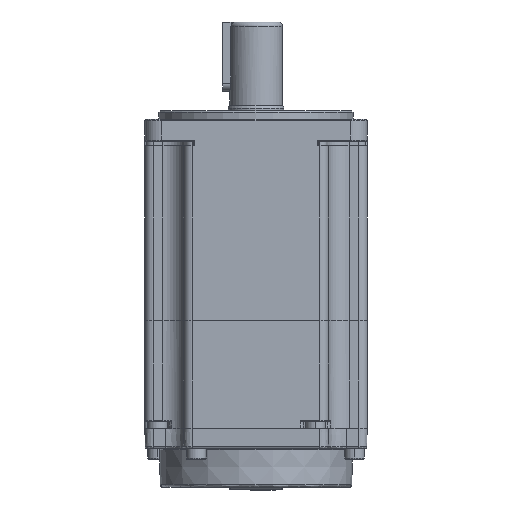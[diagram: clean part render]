
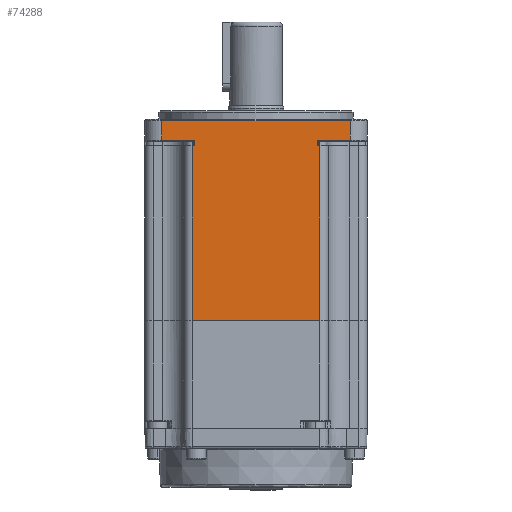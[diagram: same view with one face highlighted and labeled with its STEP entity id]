
A CAD part, front view. The second image highlights one B-rep face of the part: STEP entity #74288.
In plain terms, the highlighted planar face has unit normal (0, -1, 0).
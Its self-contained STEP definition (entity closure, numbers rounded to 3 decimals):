
#2422 = CARTESIAN_POINT ( 'NONE',  ( 37.746, -44.704, 42.75 ) ) ;
#3407 = DIRECTION ( 'NONE',  ( 0., 0., -1. ) ) ;
#7076 = EDGE_CURVE ( 'NONE', #12732, #55581, #115960, .T. ) ;
#8698 = VECTOR ( 'NONE', #81782, 1000. ) ;
#9080 = LINE ( 'NONE', #2422, #67541 ) ;
#9528 = CARTESIAN_POINT ( 'NONE',  ( 20.746, -44.704, 118.25 ) ) ;
#10376 = DIRECTION ( 'NONE',  ( 0., 0., 1. ) ) ;
#11192 = PLANE ( 'NONE',  #74548 ) ;
#11697 = DIRECTION ( 'NONE',  ( 1., 0., 0. ) ) ;
#11729 = CARTESIAN_POINT ( 'NONE',  ( 19.746, -44.704, 107.75 ) ) ;
#12706 = CARTESIAN_POINT ( 'NONE',  ( -36.254, -44.704, 107.75 ) ) ;
#12732 = VERTEX_POINT ( 'NONE', #70996 ) ;
#13141 = CARTESIAN_POINT ( 'NONE',  ( 31.746, -44.704, 114.65 ) ) ;
#13391 = EDGE_CURVE ( 'NONE', #31725, #127874, #109093, .T. ) ;
#13890 = EDGE_CURVE ( 'NONE', #69000, #120892, #102411, .T. ) ;
#16232 = ORIENTED_EDGE ( 'NONE', *, *, #49761, .T. ) ;
#16961 = CARTESIAN_POINT ( 'NONE',  ( 20.746, -44.704, 42.75 ) ) ;
#23304 = VECTOR ( 'NONE', #10376, 1000. ) ;
#25362 = LINE ( 'NONE', #55386, #77336 ) ;
#26228 = EDGE_CURVE ( 'NONE', #120892, #124269, #58440, .T. ) ;
#27139 = CARTESIAN_POINT ( 'NONE',  ( -25.254, -44.704, 105.75 ) ) ;
#27216 = VERTEX_POINT ( 'NONE', #27139 ) ;
#30057 = CARTESIAN_POINT ( 'NONE',  ( -24.254, -44.704, 118.25 ) ) ;
#30841 = CARTESIAN_POINT ( 'NONE',  ( 19.746, -44.704, 118.25 ) ) ;
#31725 = VERTEX_POINT ( 'NONE', #13141 ) ;
#32271 = CARTESIAN_POINT ( 'NONE',  ( -36.254, -44.704, 114.65 ) ) ;
#32969 = VECTOR ( 'NONE', #131649, 1000. ) ;
#33886 = EDGE_CURVE ( 'NONE', #55581, #27216, #60526, .T. ) ;
#34573 = FACE_OUTER_BOUND ( 'NONE', #127806, .T. ) ;
#42509 = DIRECTION ( 'NONE',  ( -1., 0., 0. ) ) ;
#42581 = CARTESIAN_POINT ( 'NONE',  ( -24.254, -44.704, 107.75 ) ) ;
#42735 = DIRECTION ( 'NONE',  ( -1., 0., 0. ) ) ;
#44100 = LINE ( 'NONE', #115545, #123699 ) ;
#46876 = ORIENTED_EDGE ( 'NONE', *, *, #7076, .T. ) ;
#47369 = CARTESIAN_POINT ( 'NONE',  ( 19.746, -44.704, 105.75 ) ) ;
#49447 = EDGE_CURVE ( 'NONE', #127874, #63603, #44100, .T. ) ;
#49761 = EDGE_CURVE ( 'NONE', #27216, #84607, #84536, .T. ) ;
#50591 = VECTOR ( 'NONE', #42735, 1000. ) ;
#51960 = ORIENTED_EDGE ( 'NONE', *, *, #129612, .T. ) ;
#53485 = CARTESIAN_POINT ( 'NONE',  ( 37.746, -44.704, 105.75 ) ) ;
#54396 = ORIENTED_EDGE ( 'NONE', *, *, #85055, .T. ) ;
#54967 = VERTEX_POINT ( 'NONE', #109622 ) ;
#55204 = VECTOR ( 'NONE', #93023, 1000. ) ;
#55386 = CARTESIAN_POINT ( 'NONE',  ( 37.746, -44.704, 107.75 ) ) ;
#55581 = VERTEX_POINT ( 'NONE', #131718 ) ;
#58440 = LINE ( 'NONE', #30841, #55204 ) ;
#60166 = VECTOR ( 'NONE', #3407, 1000. ) ;
#60526 = LINE ( 'NONE', #121200, #32969 ) ;
#63603 = VERTEX_POINT ( 'NONE', #12706 ) ;
#63665 = ORIENTED_EDGE ( 'NONE', *, *, #127051, .T. ) ;
#64283 = VECTOR ( 'NONE', #11697, 1000. ) ;
#64598 = DIRECTION ( 'NONE',  ( -1., 0., 0. ) ) ;
#65432 = CARTESIAN_POINT ( 'NONE',  ( -25.254, -44.704, 42.75 ) ) ;
#65557 = CARTESIAN_POINT ( 'NONE',  ( -25.254, -44.704, 118.25 ) ) ;
#65776 = DIRECTION ( 'NONE',  ( 1., 0., 0. ) ) ;
#66252 = ORIENTED_EDGE ( 'NONE', *, *, #91048, .F. ) ;
#67541 = VECTOR ( 'NONE', #64598, 1000. ) ;
#69000 = VERTEX_POINT ( 'NONE', #95052 ) ;
#70996 = CARTESIAN_POINT ( 'NONE',  ( -24.254, -44.704, 107.75 ) ) ;
#71117 = CARTESIAN_POINT ( 'NONE',  ( -36.254, -44.704, 114.65 ) ) ;
#73243 = LINE ( 'NONE', #9528, #97633 ) ;
#73723 = VERTEX_POINT ( 'NONE', #16961 ) ;
#74288 = ADVANCED_FACE ( 'NONE', ( #34573 ), #11192, .F. ) ;
#74548 = AXIS2_PLACEMENT_3D ( 'NONE', #125176, #104691, #42509 ) ;
#77336 = VECTOR ( 'NONE', #65776, 1000. ) ;
#79743 = ORIENTED_EDGE ( 'NONE', *, *, #49447, .T. ) ;
#81782 = DIRECTION ( 'NONE',  ( 0., 0., -1. ) ) ;
#84138 = DIRECTION ( 'NONE',  ( 0., 0., -1. ) ) ;
#84536 = LINE ( 'NONE', #65557, #60166 ) ;
#84607 = VERTEX_POINT ( 'NONE', #65432 ) ;
#85055 = EDGE_CURVE ( 'NONE', #124269, #54967, #25362, .T. ) ;
#86411 = ORIENTED_EDGE ( 'NONE', *, *, #110413, .T. ) ;
#91048 = EDGE_CURVE ( 'NONE', #73723, #84607, #9080, .T. ) ;
#91902 = LINE ( 'NONE', #42581, #64283 ) ;
#92593 = DIRECTION ( 'NONE',  ( 0., 0., 1. ) ) ;
#92746 = ORIENTED_EDGE ( 'NONE', *, *, #13391, .T. ) ;
#93023 = DIRECTION ( 'NONE',  ( 0., 0., 1. ) ) ;
#95052 = CARTESIAN_POINT ( 'NONE',  ( 20.746, -44.704, 105.75 ) ) ;
#97633 = VECTOR ( 'NONE', #92593, 1000. ) ;
#101382 = ORIENTED_EDGE ( 'NONE', *, *, #13890, .T. ) ;
#101762 = ORIENTED_EDGE ( 'NONE', *, *, #33886, .T. ) ;
#102411 = LINE ( 'NONE', #53485, #133340 ) ;
#104691 = DIRECTION ( 'NONE',  ( 0., 1., 0. ) ) ;
#106191 = LINE ( 'NONE', #134797, #23304 ) ;
#109093 = LINE ( 'NONE', #32271, #50591 ) ;
#109434 = ORIENTED_EDGE ( 'NONE', *, *, #26228, .T. ) ;
#109622 = CARTESIAN_POINT ( 'NONE',  ( 31.746, -44.704, 107.75 ) ) ;
#110413 = EDGE_CURVE ( 'NONE', #73723, #69000, #73243, .T. ) ;
#115545 = CARTESIAN_POINT ( 'NONE',  ( -36.254, -44.704, 118.25 ) ) ;
#115960 = LINE ( 'NONE', #30057, #8698 ) ;
#120892 = VERTEX_POINT ( 'NONE', #47369 ) ;
#121200 = CARTESIAN_POINT ( 'NONE',  ( 37.746, -44.704, 105.75 ) ) ;
#123699 = VECTOR ( 'NONE', #84138, 1000. ) ;
#124269 = VERTEX_POINT ( 'NONE', #11729 ) ;
#125176 = CARTESIAN_POINT ( 'NONE',  ( 37.746, -44.704, 118.25 ) ) ;
#126172 = DIRECTION ( 'NONE',  ( -1., 0., 0. ) ) ;
#127051 = EDGE_CURVE ( 'NONE', #54967, #31725, #106191, .T. ) ;
#127806 = EDGE_LOOP ( 'NONE', ( #66252, #86411, #101382, #109434, #54396, #63665, #92746, #79743, #51960, #46876, #101762, #16232 ) ) ;
#127874 = VERTEX_POINT ( 'NONE', #71117 ) ;
#129612 = EDGE_CURVE ( 'NONE', #63603, #12732, #91902, .T. ) ;
#131649 = DIRECTION ( 'NONE',  ( -1., 0., 0. ) ) ;
#131718 = CARTESIAN_POINT ( 'NONE',  ( -24.254, -44.704, 105.75 ) ) ;
#133340 = VECTOR ( 'NONE', #126172, 1000. ) ;
#134797 = CARTESIAN_POINT ( 'NONE',  ( 31.746, -44.704, 118.25 ) ) ;
